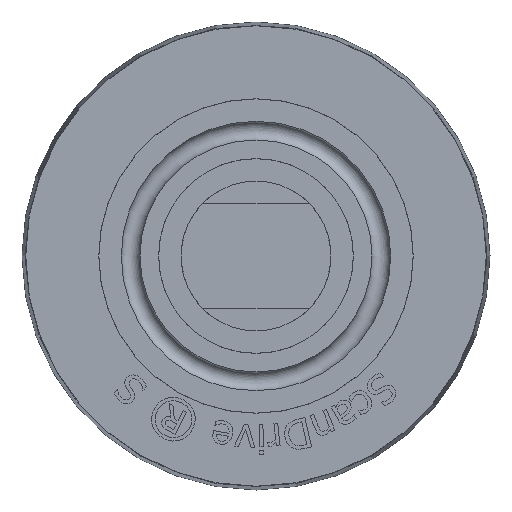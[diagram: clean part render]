
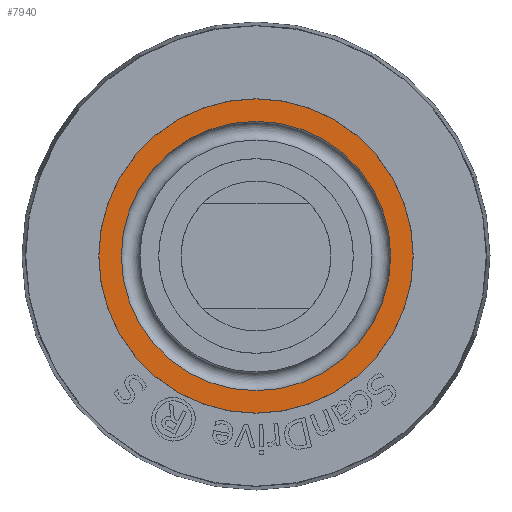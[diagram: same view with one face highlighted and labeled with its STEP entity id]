
A CAD part, left-side view. The second image highlights one B-rep face of the part: STEP entity #7940.
In plain terms, the highlighted planar face has unit normal (-1, 0, 0).
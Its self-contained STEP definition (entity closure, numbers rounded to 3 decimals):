
#60=CIRCLE('',#8324,17.99);
#61=CIRCLE('',#8326,20.99);
#151=FACE_BOUND('',#1490,.T.);
#1002=FACE_OUTER_BOUND('',#1489,.T.);
#1489=EDGE_LOOP('',(#6306));
#1490=EDGE_LOOP('',(#6307));
#3608=VERTEX_POINT('',#12298);
#3609=VERTEX_POINT('',#12301);
#4583=EDGE_CURVE('',#3608,#3608,#60,.T.);
#4584=EDGE_CURVE('',#3609,#3609,#61,.T.);
#6306=ORIENTED_EDGE('',*,*,#4584,.T.);
#6307=ORIENTED_EDGE('',*,*,#4583,.F.);
#7598=PLANE('',#8325);
#7940=ADVANCED_FACE('',(#1002,#151),#7598,.T.);
#8324=AXIS2_PLACEMENT_3D('',#12299,#9143,#9144);
#8325=AXIS2_PLACEMENT_3D('',#12300,#9145,#9146);
#8326=AXIS2_PLACEMENT_3D('',#12302,#9147,#9148);
#9143=DIRECTION('center_axis',(-1.,0.,0.));
#9144=DIRECTION('ref_axis',(0.,0.,1.));
#9145=DIRECTION('center_axis',(-1.,0.,0.));
#9146=DIRECTION('ref_axis',(0.,0.,1.));
#9147=DIRECTION('center_axis',(-1.,0.,0.));
#9148=DIRECTION('ref_axis',(0.,0.,1.));
#12298=CARTESIAN_POINT('',(-182.5,0.,17.99));
#12299=CARTESIAN_POINT('Origin',(-182.5,0.,0.));
#12300=CARTESIAN_POINT('Origin',(-182.5,0.,17.99));
#12301=CARTESIAN_POINT('',(-182.5,0.,20.99));
#12302=CARTESIAN_POINT('Origin',(-182.5,0.,0.));
